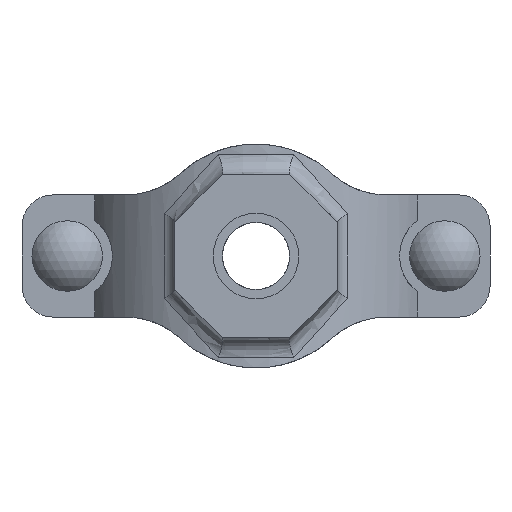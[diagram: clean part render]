
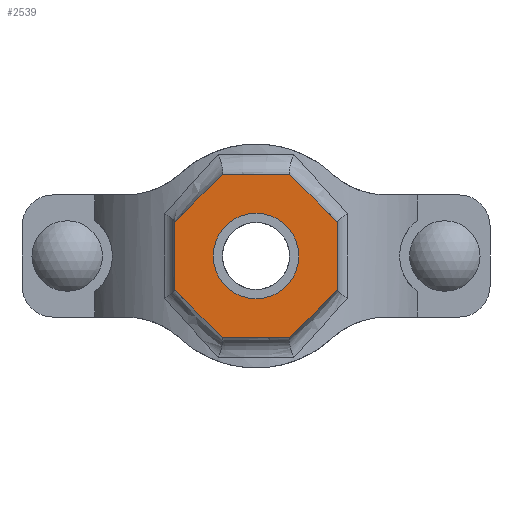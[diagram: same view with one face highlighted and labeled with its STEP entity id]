
A CAD part, front view. The second image highlights one B-rep face of the part: STEP entity #2539.
In plain terms, the highlighted planar face has unit normal (0, -1, 0) as drawn and (0, 1, 0) by its records, which use the part's own axes.
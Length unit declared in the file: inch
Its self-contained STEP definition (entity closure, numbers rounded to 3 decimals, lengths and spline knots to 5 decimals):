
#186=FACE_BOUND('',#459,.T.);
#307=FACE_OUTER_BOUND('',#458,.T.);
#458=EDGE_LOOP('',(#2138,#2139,#2140,#2141,#2142,#2143,#2144,#2145));
#459=EDGE_LOOP('',(#2146));
#594=LINE('',#4593,#780);
#597=LINE('',#4598,#783);
#599=LINE('',#4602,#785);
#601=LINE('',#4606,#787);
#641=LINE('',#4999,#827);
#643=LINE('',#5003,#829);
#645=LINE('',#5007,#831);
#647=LINE('',#5010,#833);
#780=VECTOR('',#3278,0.3937);
#783=VECTOR('',#3283,0.3937);
#785=VECTOR('',#3287,0.3937);
#787=VECTOR('',#3291,0.3937);
#827=VECTOR('',#3427,0.3937);
#829=VECTOR('',#3431,0.3937);
#831=VECTOR('',#3435,0.3937);
#833=VECTOR('',#3439,0.3937);
#919=CIRCLE('',#2802,0.525);
#1097=VERTEX_POINT('',#4590);
#1098=VERTEX_POINT('',#4592);
#1099=VERTEX_POINT('',#4596);
#1100=VERTEX_POINT('',#4600);
#1101=VERTEX_POINT('',#4604);
#1136=VERTEX_POINT('',#4844);
#1160=VERTEX_POINT('',#4998);
#1161=VERTEX_POINT('',#5002);
#1162=VERTEX_POINT('',#5006);
#1408=EDGE_CURVE('',#1098,#1097,#594,.T.);
#1411=EDGE_CURVE('',#1097,#1099,#597,.T.);
#1413=EDGE_CURVE('',#1099,#1100,#599,.T.);
#1415=EDGE_CURVE('',#1100,#1101,#601,.T.);
#1461=EDGE_CURVE('',#1136,#1136,#919,.T.);
#1495=EDGE_CURVE('',#1160,#1098,#641,.T.);
#1497=EDGE_CURVE('',#1161,#1160,#643,.T.);
#1499=EDGE_CURVE('',#1162,#1161,#645,.T.);
#1501=EDGE_CURVE('',#1101,#1162,#647,.T.);
#2138=ORIENTED_EDGE('',*,*,#1501,.T.);
#2139=ORIENTED_EDGE('',*,*,#1499,.T.);
#2140=ORIENTED_EDGE('',*,*,#1497,.T.);
#2141=ORIENTED_EDGE('',*,*,#1495,.T.);
#2142=ORIENTED_EDGE('',*,*,#1408,.T.);
#2143=ORIENTED_EDGE('',*,*,#1411,.T.);
#2144=ORIENTED_EDGE('',*,*,#1413,.T.);
#2145=ORIENTED_EDGE('',*,*,#1415,.T.);
#2146=ORIENTED_EDGE('',*,*,#1461,.T.);
#2280=PLANE('',#2825);
#2539=ADVANCED_FACE('',(#307,#186),#2280,.T.);
#2802=AXIS2_PLACEMENT_3D('',#4845,#3369,#3370);
#2825=AXIS2_PLACEMENT_3D('',#5011,#3440,#3441);
#3278=DIRECTION('',(0.,0.,1.));
#3283=DIRECTION('',(0.707,0.,0.707));
#3287=DIRECTION('',(1.,0.,0.));
#3291=DIRECTION('',(0.707,0.,-0.707));
#3369=DIRECTION('center_axis',(0.,-1.,0.));
#3370=DIRECTION('ref_axis',(-1.,0.,0.));
#3427=DIRECTION('',(-0.707,0.,0.707));
#3431=DIRECTION('',(-1.,0.,0.));
#3435=DIRECTION('',(-0.707,0.,-0.707));
#3439=DIRECTION('',(0.,0.,-1.));
#3440=DIRECTION('center_axis',(0.,1.,0.));
#3441=DIRECTION('ref_axis',(0.,0.,1.));
#4590=CARTESIAN_POINT('',(-1.,3.05,0.41421));
#4592=CARTESIAN_POINT('',(-1.,3.05,-0.41421));
#4593=CARTESIAN_POINT('',(-1.,3.05,0.41421));
#4596=CARTESIAN_POINT('',(-0.41421,3.05,1.));
#4598=CARTESIAN_POINT('',(-0.41421,3.05,1.));
#4600=CARTESIAN_POINT('',(0.41421,3.05,1.));
#4602=CARTESIAN_POINT('',(0.41421,3.05,1.));
#4604=CARTESIAN_POINT('',(1.,3.05,0.41421));
#4606=CARTESIAN_POINT('',(1.,3.05,0.41421));
#4844=CARTESIAN_POINT('',(0.525,3.05,0.));
#4845=CARTESIAN_POINT('Origin',(0.,3.05,0.));
#4998=CARTESIAN_POINT('',(-0.41421,3.05,-1.));
#4999=CARTESIAN_POINT('',(-1.,3.05,-0.41421));
#5002=CARTESIAN_POINT('',(0.41421,3.05,-1.));
#5003=CARTESIAN_POINT('',(-0.41421,3.05,-1.));
#5006=CARTESIAN_POINT('',(1.,3.05,-0.41421));
#5007=CARTESIAN_POINT('',(0.41421,3.05,-1.));
#5010=CARTESIAN_POINT('',(1.,3.05,-0.41421));
#5011=CARTESIAN_POINT('Origin',(0.,3.05,0.));
